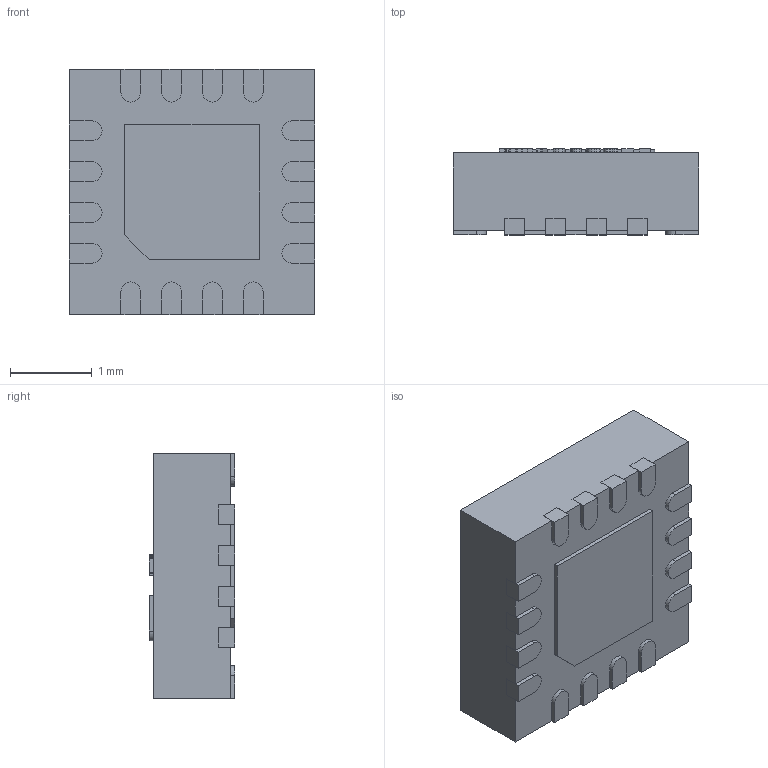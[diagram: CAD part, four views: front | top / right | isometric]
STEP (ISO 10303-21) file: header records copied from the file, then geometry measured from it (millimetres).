
FILE_DESCRIPTION(/* description */ ('STEP AP214'),/* implementation_level */ '2;1');
FILE_NAME(/* name */ 'METUPowerLab_Sensors_Encoders_16-VFQFN-MA730GQ-Z.step',/* time_stamp */ '2025-06-27T23:24:57+03:00',/* author */ (''),/* organization */ (''),/* preprocessor_version */ 'ST-DEVELOPER v20.1',/* originating_system */ 'Autodesk Translation Framework v14.10.0.0',/* authorisation */ '');
FILE_SCHEMA (('AUTOMOTIVE_DESIGN { 1 0 10303 214 3 1 1 }'));
Length unit declared in the file: millimetre
Products named in the file (1): MA730GQ-Z
Bounding box: 3 x 1.05 x 3 mm (x, y, z)
Volume: 8.8 mm3; surface area: 46.7 mm2
Topology: 19 solids, 19 shells, 524 faces, 1404 edges, 936 vertices
Faces by surface type: plane 278, bspline 212, cylinder 34
Full cylindrical faces by diameter (mm): 0.3 x2
Entity records: 18125 total; most frequent: CARTESIAN_POINT 6397, ORIENTED_EDGE 2808, DIRECTION 1674, EDGE_CURVE 1404, VERTEX_POINT 936, LINE 912, VECTOR 912, EDGE_LOOP 542
